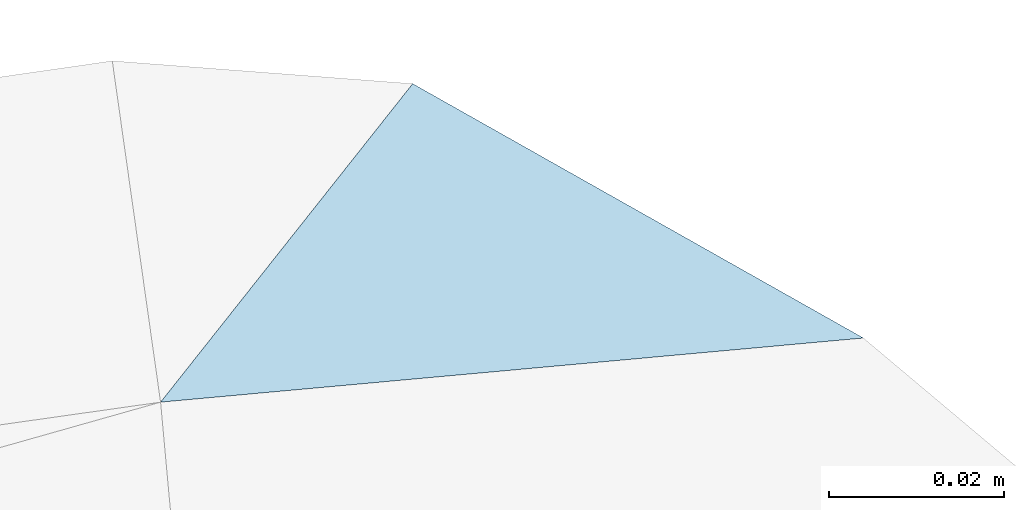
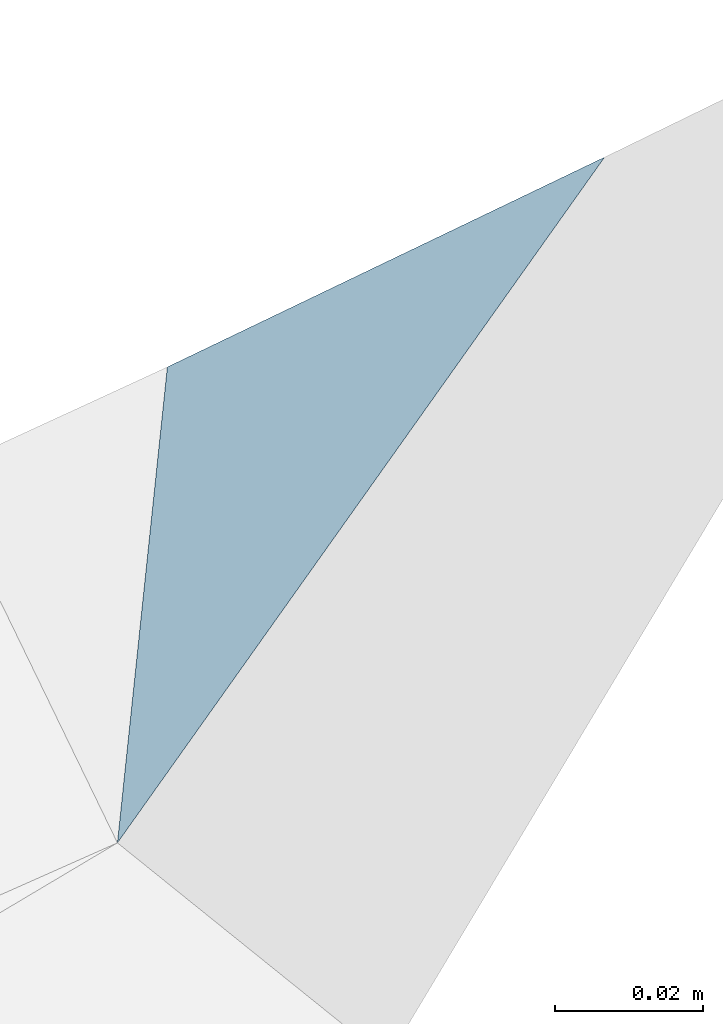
# One storey, part 12 of 14: 1 slab.
"""IFC2X3 building model written with IfcOpenShell, lengths in metres."""

from ifc_helpers import new_model, si_unit, origin, origin_with_axes, place, context, subcontext, project, spatial, faceted_brep, element, save


model = new_model("IFC2X3")

# Units and contexts
context_of_model = context(None, 3, world=origin_with_axes())
sub_context = subcontext(context_of_model, None, None, "MODEL_VIEW")
ifc_project = project(units=[si_unit("LENGTHUNIT", "METRE"), si_unit("AREAUNIT", "SQUARE_METRE"), si_unit("VOLUMEUNIT", "CUBIC_METRE"), si_unit("PLANEANGLEUNIT", "RADIAN"), si_unit("MASSUNIT", "GRAM", prefix="KILO")])

# Site, building, storey
site_placement = place(None, origin_with_axes())
site = spatial("IfcSite", under=ifc_project, at=site_placement, Name="Site.1", CompositionType="ELEMENT")
building_placement = place(site_placement, origin())
building = spatial("IfcBuilding", under=site, at=building_placement, Name="Building.1", CompositionType="ELEMENT")
storey_placement = place(building_placement, origin())
storey = spatial("IfcBuildingStorey", under=building, at=storey_placement, Name="VRD", CompositionType="ELEMENT")

# Slab
slab_placement = place(storey_placement, origin())
element("IfcSlab", 1, at=slab_placement, inside=storey, Name="PJ FINI n°107", PredefinedType="USERDEFINED", context=sub_context, shape_type="Brep", body=[
    faceted_brep([(-6.519466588, 33.06280874, 0.062467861), (-6.599849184, 33.055473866, -0.018248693), (-6.571016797, 33.091895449, 0.028203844)], [[[0, 1, 2]]]),
])

save(model, "model.ifc")
